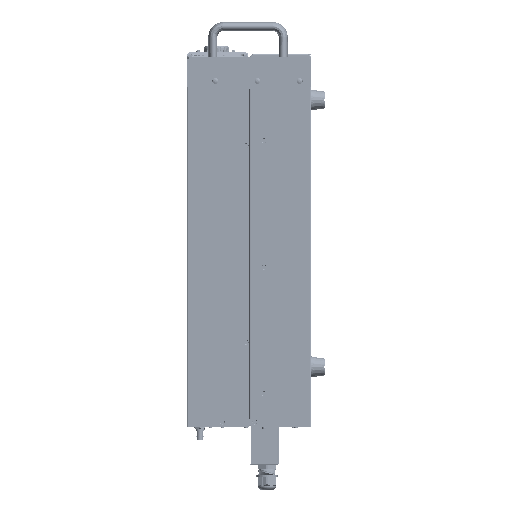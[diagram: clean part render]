
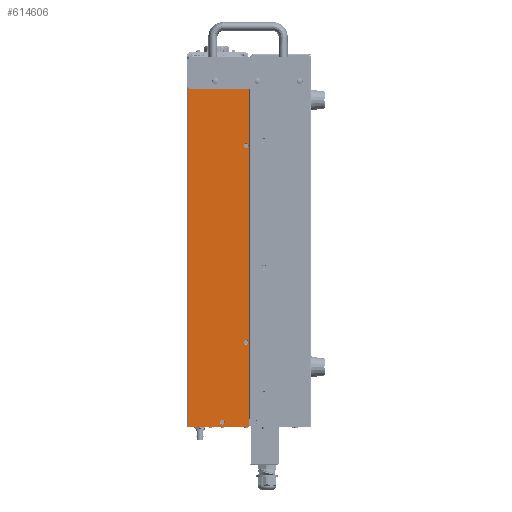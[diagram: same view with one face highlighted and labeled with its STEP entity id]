
A CAD part, left-side view. The second image highlights one B-rep face of the part: STEP entity #614606.
In plain terms, the highlighted planar face has unit normal (-1, 0, 0).
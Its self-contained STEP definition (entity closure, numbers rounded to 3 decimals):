
#613721=CARTESIAN_POINT('',(-214.7,136.5,-23.8));
#613722=DIRECTION('',(-1.,0.,0.));
#613723=DIRECTION('',(0.,1.,0.));
#613724=AXIS2_PLACEMENT_3D('',#613721,#613722,#613723);
#613726=CARTESIAN_POINT('',(-214.7,136.5,-23.8));
#613727=DIRECTION('',(-1.,0.,0.));
#613728=DIRECTION('',(0.,-1.,0.));
#613729=AXIS2_PLACEMENT_3D('',#613726,#613727,#613728);
#613731=CARTESIAN_POINT('',(-214.7,92.6,-115.8));
#613732=DIRECTION('',(-1.,0.,0.));
#613733=DIRECTION('',(0.,1.,0.));
#613734=AXIS2_PLACEMENT_3D('',#613731,#613732,#613733);
#613736=CARTESIAN_POINT('',(-214.7,92.6,-115.8));
#613737=DIRECTION('',(-1.,0.,0.));
#613738=DIRECTION('',(0.,-1.,0.));
#613739=AXIS2_PLACEMENT_3D('',#613736,#613737,#613738);
#613741=CARTESIAN_POINT('',(-214.7,92.6,-395.8));
#613742=DIRECTION('',(-1.,0.,0.));
#613743=DIRECTION('',(0.,1.,0.));
#613744=AXIS2_PLACEMENT_3D('',#613741,#613742,#613743);
#613746=CARTESIAN_POINT('',(-214.7,92.6,-395.8));
#613747=DIRECTION('',(-1.,0.,0.));
#613748=DIRECTION('',(0.,-1.,0.));
#613749=AXIS2_PLACEMENT_3D('',#613746,#613747,#613748);
#613751=CARTESIAN_POINT('',(-214.7,126.5,-509.3));
#613752=DIRECTION('',(-1.,0.,0.));
#613753=DIRECTION('',(0.,1.,0.));
#613754=AXIS2_PLACEMENT_3D('',#613751,#613752,#613753);
#613756=CARTESIAN_POINT('',(-214.7,126.5,-509.3));
#613757=DIRECTION('',(-1.,0.,0.));
#613758=DIRECTION('',(0.,-1.,0.));
#613759=AXIS2_PLACEMENT_3D('',#613756,#613757,#613758);
#613761=CARTESIAN_POINT('',(-214.7,90.,-514.3));
#613762=DIRECTION('',(-1.,0.,0.));
#613763=DIRECTION('',(0.,0.,-1.));
#613764=AXIS2_PLACEMENT_3D('',#613761,#613762,#613763);
#613766=DIRECTION('',(0.,0.,-1.));
#613767=VECTOR('',#613766,516.7);
#613768=CARTESIAN_POINT('',(-214.7,175.3,0.9));
#613769=LINE('',#613768,#613767);
#613770=CARTESIAN_POINT('',(-214.7,98.1,0.3));
#613771=DIRECTION('',(-1.,0.,0.));
#613772=DIRECTION('',(0.,-1.,0.));
#613773=AXIS2_PLACEMENT_3D('',#613770,#613771,#613772);
#613775=DIRECTION('',(0.,0.,-1.));
#613776=VECTOR('',#613775,0.5);
#613777=CARTESIAN_POINT('',(-214.7,97.5,0.3));
#613778=LINE('',#613777,#613776);
#613779=DIRECTION('',(0.,1.,0.));
#613780=VECTOR('',#613779,7.5);
#613781=CARTESIAN_POINT('',(-214.7,90.,-0.2));
#613782=LINE('',#613781,#613780);
#613783=CARTESIAN_POINT('',(-214.7,90.,-1.7));
#613784=DIRECTION('',(-1.,0.,0.));
#613785=DIRECTION('',(0.,-1.,0.));
#613786=AXIS2_PLACEMENT_3D('',#613783,#613784,#613785);
#613891=DIRECTION('',(0.,0.,-1.));
#613892=VECTOR('',#613891,512.6);
#613893=CARTESIAN_POINT('',(-214.7,88.5,-1.7));
#613894=LINE('',#613893,#613892);
#613919=DIRECTION('',(0.,-1.,0.));
#613920=VECTOR('',#613919,77.2);
#613921=CARTESIAN_POINT('',(-214.7,175.3,0.9));
#613922=LINE('',#613921,#613920);
#613971=DIRECTION('',(0.,-1.,0.));
#613972=VECTOR('',#613971,85.3);
#613973=CARTESIAN_POINT('',(-214.7,175.3,-515.8));
#613974=LINE('',#613973,#613972);
#614379=CARTESIAN_POINT('',(-214.7,175.3,0.9));
#614380=VERTEX_POINT('',#614379);
#614387=CARTESIAN_POINT('',(-214.7,175.3,-515.8));
#614388=VERTEX_POINT('',#614387);
#614409=CARTESIAN_POINT('',(-214.7,97.5,-0.2));
#614411=VERTEX_POINT('',#614409);
#614421=CARTESIAN_POINT('',(-214.7,97.5,0.3));
#614422=CARTESIAN_POINT('',(-214.7,98.1,0.9));
#614423=VERTEX_POINT('',#614421);
#614424=VERTEX_POINT('',#614422);
#614437=CARTESIAN_POINT('',(-214.7,88.5,-1.7));
#614438=CARTESIAN_POINT('',(-214.7,90.,-0.2));
#614439=VERTEX_POINT('',#614437);
#614440=VERTEX_POINT('',#614438);
#614454=CARTESIAN_POINT('',(-214.7,141.05,-23.8));
#614456=VERTEX_POINT('',#614454);
#614458=CARTESIAN_POINT('',(-214.7,131.95,-23.8));
#614460=VERTEX_POINT('',#614458);
#614510=CARTESIAN_POINT('',(-214.7,96.05,-115.8));
#614512=VERTEX_POINT('',#614510);
#614514=CARTESIAN_POINT('',(-214.7,89.15,-115.8));
#614516=VERTEX_POINT('',#614514);
#614518=CARTESIAN_POINT('',(-214.7,96.05,-395.8));
#614520=VERTEX_POINT('',#614518);
#614522=CARTESIAN_POINT('',(-214.7,89.15,-395.8));
#614524=VERTEX_POINT('',#614522);
#614533=CARTESIAN_POINT('',(-214.7,90.,-515.8));
#614534=CARTESIAN_POINT('',(-214.7,88.5,-514.3));
#614535=VERTEX_POINT('',#614533);
#614536=VERTEX_POINT('',#614534);
#614550=CARTESIAN_POINT('',(-214.7,129.95,-509.3));
#614552=VERTEX_POINT('',#614550);
#614554=CARTESIAN_POINT('',(-214.7,123.05,-509.3));
#614556=VERTEX_POINT('',#614554);
#614557=CARTESIAN_POINT('',(-214.7,175.3,0.9));
#614558=DIRECTION('',(-1.,0.,0.));
#614559=DIRECTION('',(0.,-1.,0.));
#614560=AXIS2_PLACEMENT_3D('',#614557,#614558,#614559);
#614561=PLANE('',#614560);
#614563=ORIENTED_EDGE('',*,*,#614562,.F.);
#614565=ORIENTED_EDGE('',*,*,#614564,.F.);
#614567=ORIENTED_EDGE('',*,*,#614566,.F.);
#614569=ORIENTED_EDGE('',*,*,#614568,.T.);
#614571=ORIENTED_EDGE('',*,*,#614570,.F.);
#614573=ORIENTED_EDGE('',*,*,#614572,.T.);
#614575=ORIENTED_EDGE('',*,*,#614574,.F.);
#614577=ORIENTED_EDGE('',*,*,#614576,.F.);
#614579=ORIENTED_EDGE('',*,*,#614578,.T.);
#614580=EDGE_LOOP('',(#614563,#614565,#614567,#614569,#614571,#614573,#614575,
#614577,#614579));
#614581=FACE_OUTER_BOUND('',#614580,.F.);
#614583=ORIENTED_EDGE('',*,*,#614582,.T.);
#614585=ORIENTED_EDGE('',*,*,#614584,.T.);
#614586=EDGE_LOOP('',(#614583,#614585));
#614587=FACE_BOUND('',#614586,.F.);
#614589=ORIENTED_EDGE('',*,*,#614588,.T.);
#614591=ORIENTED_EDGE('',*,*,#614590,.T.);
#614592=EDGE_LOOP('',(#614589,#614591));
#614593=FACE_BOUND('',#614592,.F.);
#614595=ORIENTED_EDGE('',*,*,#614594,.T.);
#614597=ORIENTED_EDGE('',*,*,#614596,.T.);
#614598=EDGE_LOOP('',(#614595,#614597));
#614599=FACE_BOUND('',#614598,.F.);
#614601=ORIENTED_EDGE('',*,*,#614600,.T.);
#614603=ORIENTED_EDGE('',*,*,#614602,.T.);
#614604=EDGE_LOOP('',(#614601,#614603));
#614605=FACE_BOUND('',#614604,.F.);
#614606=ADVANCED_FACE('',(#614581,#614587,#614593,#614599,#614605),#614561,.T.);
#613725=CIRCLE('',#613724,4.55);
#613730=CIRCLE('',#613729,4.55);
#613735=CIRCLE('',#613734,3.45);
#613740=CIRCLE('',#613739,3.45);
#613745=CIRCLE('',#613744,3.45);
#613750=CIRCLE('',#613749,3.45);
#613755=CIRCLE('',#613754,3.45);
#613760=CIRCLE('',#613759,3.45);
#613765=CIRCLE('',#613764,1.5);
#613774=CIRCLE('',#613773,0.6);
#613787=CIRCLE('',#613786,1.5);
#614562=EDGE_CURVE('',#614535,#614536,#613765,.T.);
#614564=EDGE_CURVE('',#614388,#614535,#613974,.T.);
#614566=EDGE_CURVE('',#614380,#614388,#613769,.T.);
#614568=EDGE_CURVE('',#614380,#614424,#613922,.T.);
#614570=EDGE_CURVE('',#614423,#614424,#613774,.T.);
#614572=EDGE_CURVE('',#614423,#614411,#613778,.T.);
#614574=EDGE_CURVE('',#614440,#614411,#613782,.T.);
#614576=EDGE_CURVE('',#614439,#614440,#613787,.T.);
#614578=EDGE_CURVE('',#614439,#614536,#613894,.T.);
#614582=EDGE_CURVE('',#614512,#614516,#613735,.T.);
#614584=EDGE_CURVE('',#614516,#614512,#613740,.T.);
#614588=EDGE_CURVE('',#614520,#614524,#613745,.T.);
#614590=EDGE_CURVE('',#614524,#614520,#613750,.T.);
#614594=EDGE_CURVE('',#614552,#614556,#613755,.T.);
#614596=EDGE_CURVE('',#614556,#614552,#613760,.T.);
#614600=EDGE_CURVE('',#614456,#614460,#613725,.T.);
#614602=EDGE_CURVE('',#614460,#614456,#613730,.T.);
